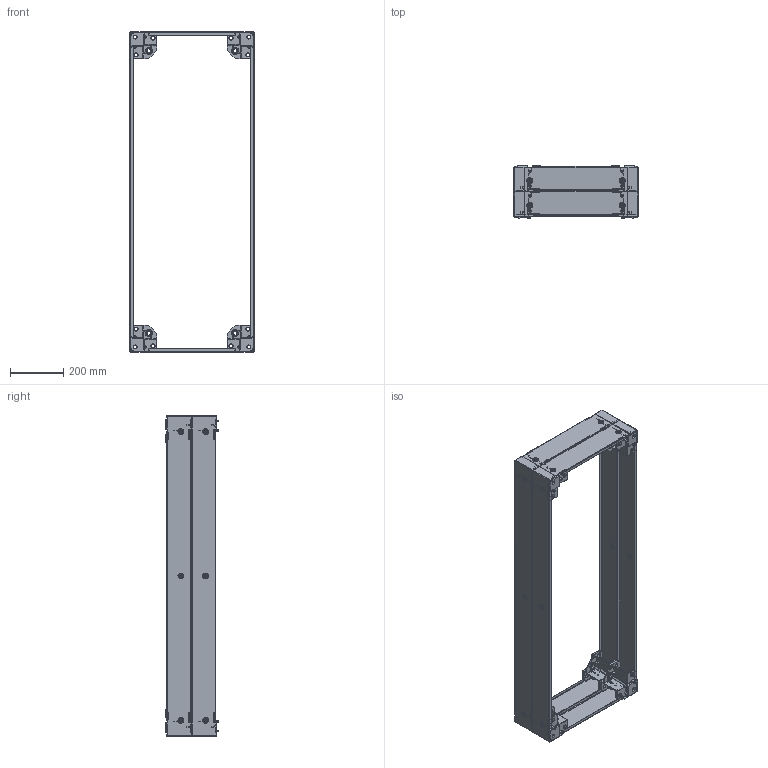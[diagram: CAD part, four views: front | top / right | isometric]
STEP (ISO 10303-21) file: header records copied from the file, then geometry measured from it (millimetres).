
FILE_DESCRIPTION (( 'STEP AP203' ), '1' );
FILE_NAME ('p2bp2125.STEP', '2016-06-08T19:10:55', ( '' ), ( '' ), 'SwSTEP 2.0', 'SolidWorks 2014', '' );
FILE_SCHEMA (( 'CONFIG_CONTROL_DESIGN' ));
Length unit declared in the file: millimetre
Products named in the file (4): 89130117; 60127131_60127131; 89130123; p2bp2125
Assembly tree (16 placements, depth 2):
  p2bp2125
    89130117  x4
    89130123  x4
    60127131_60127131  x8
Bounding box: 463.81 x 198.5 x 1199 mm (x, y, z)
Volume: 2318328.5 mm3; surface area: 1995956.1 mm2
Topology: 16 solids, 16 shells, 5384 faces, 13376 edges, 7824 vertices
Faces by surface type: cylinder 1592, plane 1456, bspline 968, cone 768, torus 344, sphere 256
Entity records: 25792 total; most frequent: CARTESIAN_POINT 8685, ORIENTED_EDGE 3614, DIRECTION 3271, EDGE_CURVE 1807, AXIS2_PLACEMENT_3D 1246, VERTEX_POINT 1080, EDGE_LOOP 803, VECTOR 779
